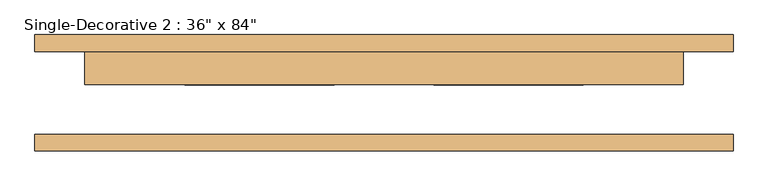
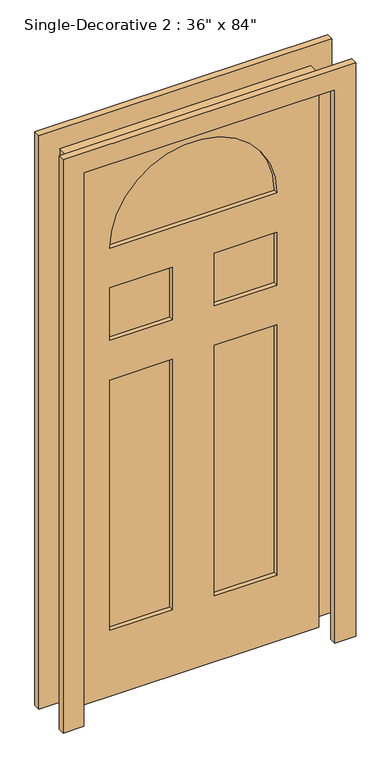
"""IFC4 building model written with IfcOpenShell, lengths in millimetres: door geometry."""

from ifc_helpers import new_model, si_unit, point, frame, frame_2d, origin, place, context, project, spatial, polyline, circle_curve, trimmed, segment, composite_curve, outline, extrude, source, transform, mapped, element, save


def door_2e3b4da2(model_context):
    return source(origin(), model_context, "Body", "SweptSolid", [
        extrude(outline(polyline([(0.0, -457.2), (0.0, 457.2), (2133.6, 457.2), (2133.6, -457.2), (0.0, -457.2)]), holes=[polyline([(254.0, -76.2), (254.0, -304.8), (1219.2, -304.8), (1219.2, -76.2), (254.0, -76.2)]), polyline([(254.0, 304.8), (254.0, 76.2), (1219.2, 76.2), (1219.2, 304.8), (254.0, 304.8)]), polyline([(1371.6, 76.2), (1574.8, 76.2), (1574.8, 304.8), (1371.6, 304.8), (1371.6, 76.2)]), polyline([(1371.6, -304.8), (1574.8, -304.8), (1574.8, -76.2), (1371.6, -76.2), (1371.6, -304.8)]), composite_curve([segment(polyline([(1727.2, 304.8), (1727.2, -304.8)]), True, "CONTINUOUS"), segment(trimmed(circle_curve(frame_2d((1727.2, 0.0)), 304.8), [point((1727.2, -304.8))], [point((1727.2, 304.8))], True, "CARTESIAN"), True, "CONTINUOUS")], self_intersect=False)]), frame((0.0, 12.7, 0.0), z_axis=(0.0, 1.0, 0.0), x_axis=(0.0, 0.0, 1.0)), (0.0, 0.0, 1.0), 50.8),
        extrude(outline(polyline([(0.0, 457.2), (0.0, 533.4), (2209.8, 533.4), (2209.8, -533.4), (0.0, -533.4), (0.0, -457.2), (2133.6, -457.2), (2133.6, 457.2), (0.0, 457.2)])), frame((0.0, -88.9, 0.0), z_axis=(0.0, 1.0, 0.0), x_axis=(0.0, 0.0, 1.0)), (0.0, 0.0, 1.0), 25.4),
        extrude(outline(polyline([(2209.8, -533.4), (0.0, -533.4), (0.0, -457.2), (2133.6, -457.2), (2133.6, 457.2), (0.0, 457.2), (0.0, 533.4), (2209.8, 533.4), (2209.8, -533.4)])), frame((0.0, 63.5, 0.0), z_axis=(0.0, 1.0, 0.0), x_axis=(0.0, 0.0, 1.0)), (0.0, 0.0, 1.0), 25.4),
        extrude(outline(composite_curve([segment(polyline([(1727.2, -304.8), (1727.2, 304.8)]), True, "CONTINUOUS"), segment(trimmed(circle_curve(frame_2d((1727.2, 0.0)), 304.8), [point((1727.2, 304.8))], [point((1727.2, -304.8))], False, "CARTESIAN"), True, "CONTINUOUS")], self_intersect=False)), frame((0.0, 29.6333333, 0.0), z_axis=(0.0, 1.0, 0.0), x_axis=(0.0, 0.0, 1.0)), (0.0, 0.0, 1.0), 16.9333333),
        extrude(outline(polyline([(-304.8, 46.5666667), (-76.2, 46.5666667), (-76.2, 29.6333333), (-304.8, 29.6333333), (-304.8, 46.5666667)])), frame((0.0, 0.0, 254.0), z_axis=(0.0, 0.0, 1.0), x_axis=(1.0, 0.0, 0.0)), (0.0, 0.0, 1.0), 965.2),
        extrude(outline(polyline([(76.2, 46.5666667), (304.8, 46.5666667), (304.8, 29.6333333), (76.2, 29.6333333), (76.2, 46.5666667)])), frame((0.0, 0.0, 254.0), z_axis=(0.0, 0.0, 1.0), x_axis=(1.0, 0.0, 0.0)), (0.0, 0.0, 1.0), 965.2),
        extrude(outline(polyline([(76.2, 46.5666667), (304.8, 46.5666667), (304.8, 29.6333333), (76.2, 29.6333333), (76.2, 46.5666667)])), frame((0.0, 0.0, 1371.6), z_axis=(0.0, 0.0, 1.0), x_axis=(1.0, 0.0, 0.0)), (0.0, 0.0, 1.0), 203.2),
        extrude(outline(polyline([(-304.8, 46.5666667), (-76.2, 46.5666667), (-76.2, 29.6333333), (-304.8, 29.6333333), (-304.8, 46.5666667)])), frame((0.0, 0.0, 1371.6), z_axis=(0.0, 0.0, 1.0), x_axis=(1.0, 0.0, 0.0)), (0.0, 0.0, 1.0), 203.2),
    ])


if __name__ == "__main__":
    model = new_model("IFC4")
    model_context = context("Model", 3, world=origin())
    ifc_project = project(units=[si_unit("LENGTHUNIT", "METRE", prefix="MILLI")], contexts=[model_context])
    site = spatial("IfcSite", under=ifc_project)
    building = spatial("IfcBuilding", under=site)
    placement = place(None, origin())
    door_shape = door_2e3b4da2(model_context)
    element("IfcDoor", 1, ObjectType="Single-Decorative 2 : 36\" x 84\"", at=placement, inside=building, context=model_context, shape_type="MappedRepresentation", body=[
        mapped(door_shape, transform((0.0, 0.0, 0.0), x_axis=(1.0, 0.0, 0.0), y_axis=(0.0, 1.0, 0.0), z_axis=(0.0, 0.0, 1.0))),
    ])
    save(model, "model.ifc")
